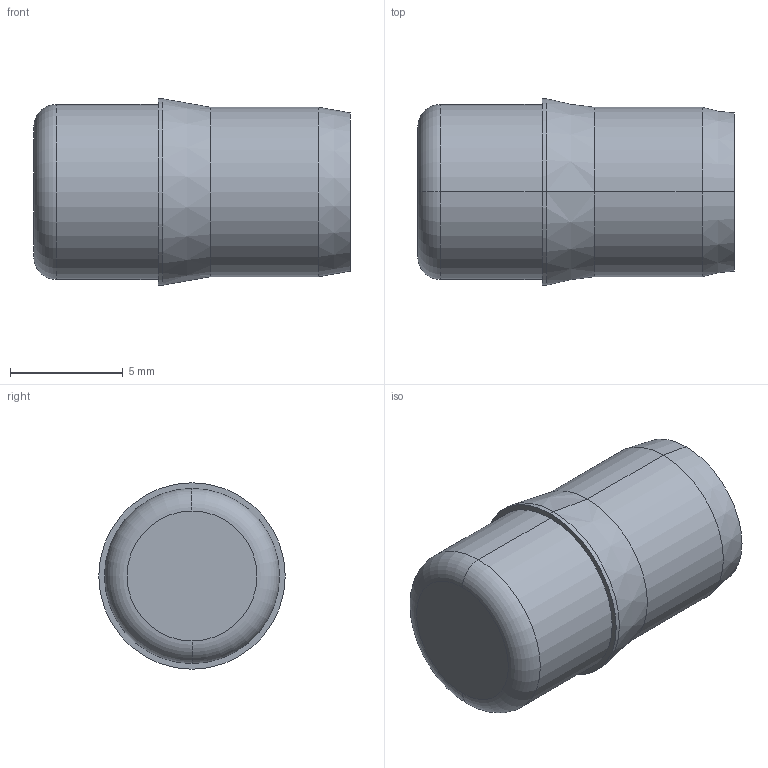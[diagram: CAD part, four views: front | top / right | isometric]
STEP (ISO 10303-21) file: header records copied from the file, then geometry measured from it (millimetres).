
FILE_DESCRIPTION (( 'STEP AP203' ), '1' );
FILE_NAME ('KP_06016-08.step', '2011-08-08T12:05:36', ( '' ), ( '' ), 'SwSTEP 2.0', 'SolidWorks 2011', '' );
FILE_SCHEMA (( 'CONFIG_CONTROL_DESIGN' ));
Length unit declared in the file: millimetre
Products named in the file (1): KP_06016-08
Bounding box: 14 x 8.25 x 8.25 mm (x, y, z)
Volume: 485.1 mm3; surface area: 563.5 mm2
Topology: 1 solids, 1 shells, 18 faces, 34 edges, 20 vertices
Faces by surface type: cylinder 8, cone 4, plane 4, torus 2
Entity records: 533 total; most frequent: DIRECTION 94, CARTESIAN_POINT 73, ORIENTED_EDGE 68, AXIS2_PLACEMENT_3D 41, EDGE_CURVE 34, CIRCLE 22, VERTEX_POINT 20, EDGE_LOOP 20
